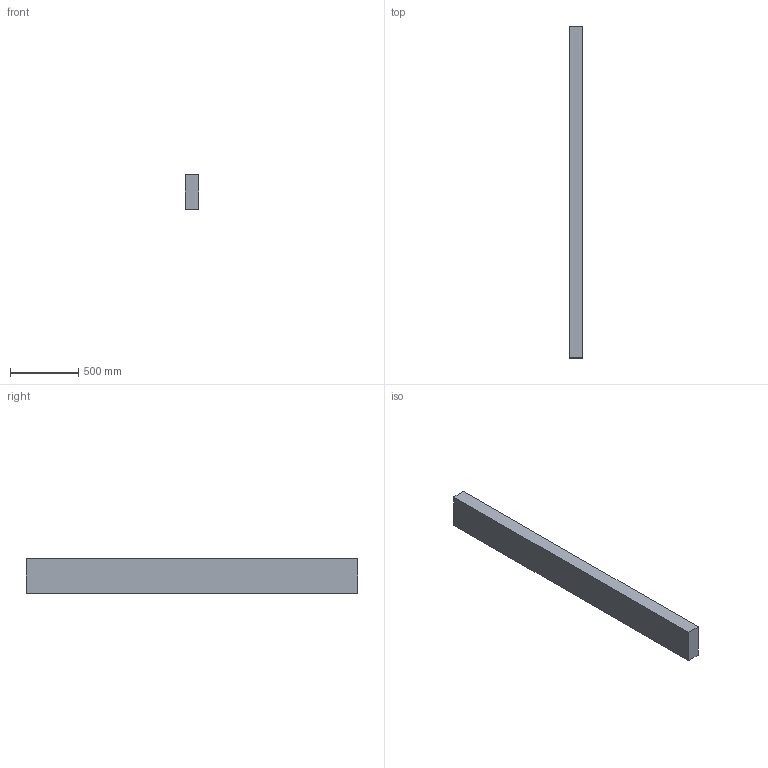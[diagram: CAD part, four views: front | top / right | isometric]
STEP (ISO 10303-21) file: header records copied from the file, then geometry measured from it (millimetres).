
FILE_DESCRIPTION(/* description */ (''),/* implementation_level */ '2;1');
FILE_NAME(/* name */ '4x10x96',/* time_stamp */ '2024-09-20T11:45:56-05:00',/* author */ (''),/* organization */ (''),/* preprocessor_version */ 'ST-DEVELOPER v19.2',/* originating_system */ 'Rhino 8.5',/* authorisation */ '');
FILE_SCHEMA (('CONFIG_CONTROL_DESIGN'));
Length unit declared in the file: inch
Products named in the file (1): Document
Bounding box: 101.6 x 2438.4 x 254 mm (x, y, z)
Volume: 62926325.8 mm3; surface area: 1785802.9 mm2
Topology: 1 solids, 1 shells, 6 faces, 12 edges, 8 vertices
Faces by surface type: plane 6
Entity records: 226 total; most frequent: CARTESIAN_POINT 40, ORIENTED_EDGE 24, EDGE_CURVE 12, B_SPLINE_CURVE_WITH_KNOTS 12, DIRECTION 10, VERTEX_POINT 8, AXIS2_PLACEMENT_3D 8, ORGANIZATION 7
